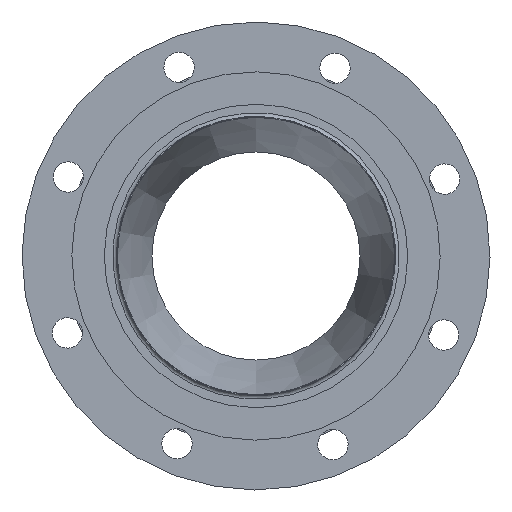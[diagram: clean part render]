
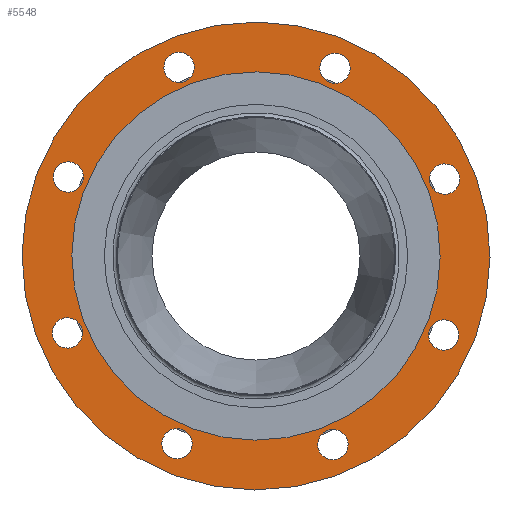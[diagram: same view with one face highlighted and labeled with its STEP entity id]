
A CAD part, front view. The second image highlights one B-rep face of the part: STEP entity #5548.
In plain terms, the highlighted planar face has unit normal (0, -1, 0) as drawn and (0, 1, 0) by its records, which use the part's own axes.
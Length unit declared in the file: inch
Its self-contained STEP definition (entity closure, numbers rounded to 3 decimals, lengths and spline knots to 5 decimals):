
#5209=CARTESIAN_POINT('',(-1.93891,0.9375,5.73715));
#5210=VERTEX_POINT('',#5209);
#5211=CARTESIAN_POINT('',(-2.24827,0.9375,5.42779));
#5212=DIRECTION('',(0.0,-1.0,0.0));
#5213=DIRECTION('',(0.707,0.0,0.707));
#5214=AXIS2_PLACEMENT_3D('',#5211,#5212,#5213);
#5215=CIRCLE('',#5214,0.4375);
#5216=EDGE_CURVE('',#5210,#5210,#5215,.T.);
#5237=CARTESIAN_POINT('',(-5.42779,0.9375,2.68577));
#5238=VERTEX_POINT('',#5237);
#5239=CARTESIAN_POINT('',(-5.42779,0.9375,2.24827));
#5240=DIRECTION('',(0.0,-1.0,0.0));
#5241=DIRECTION('',(0.0,0.0,1.0));
#5242=AXIS2_PLACEMENT_3D('',#5239,#5240,#5241);
#5243=CIRCLE('',#5242,0.4375);
#5244=EDGE_CURVE('',#5238,#5238,#5243,.T.);
#5265=CARTESIAN_POINT('',(-5.73715,0.9375,-1.93891));
#5266=VERTEX_POINT('',#5265);
#5267=CARTESIAN_POINT('',(-5.42779,0.9375,-2.24827));
#5268=DIRECTION('',(0.0,-1.0,0.0));
#5269=DIRECTION('',(-0.707,0.0,0.707));
#5270=AXIS2_PLACEMENT_3D('',#5267,#5268,#5269);
#5271=CIRCLE('',#5270,0.4375);
#5272=EDGE_CURVE('',#5266,#5266,#5271,.T.);
#5293=CARTESIAN_POINT('',(-2.68577,0.9375,-5.42779));
#5294=VERTEX_POINT('',#5293);
#5295=CARTESIAN_POINT('',(-2.24827,0.9375,-5.42779));
#5296=DIRECTION('',(0.0,-1.0,0.0));
#5297=DIRECTION('',(-1.0,0.0,0.0));
#5298=AXIS2_PLACEMENT_3D('',#5295,#5296,#5297);
#5299=CIRCLE('',#5298,0.4375);
#5300=EDGE_CURVE('',#5294,#5294,#5299,.T.);
#5321=CARTESIAN_POINT('',(1.93891,0.9375,-5.73715));
#5322=VERTEX_POINT('',#5321);
#5323=CARTESIAN_POINT('',(2.24827,0.9375,-5.42779));
#5324=DIRECTION('',(0.0,-1.0,0.0));
#5325=DIRECTION('',(-0.707,0.0,-0.707));
#5326=AXIS2_PLACEMENT_3D('',#5323,#5324,#5325);
#5327=CIRCLE('',#5326,0.4375);
#5328=EDGE_CURVE('',#5322,#5322,#5327,.T.);
#5349=CARTESIAN_POINT('',(5.42779,0.9375,-2.68577));
#5350=VERTEX_POINT('',#5349);
#5351=CARTESIAN_POINT('',(5.42779,0.9375,-2.24827));
#5352=DIRECTION('',(0.0,-1.0,0.0));
#5353=DIRECTION('',(0.0,0.0,-1.0));
#5354=AXIS2_PLACEMENT_3D('',#5351,#5352,#5353);
#5355=CIRCLE('',#5354,0.4375);
#5356=EDGE_CURVE('',#5350,#5350,#5355,.T.);
#5377=CARTESIAN_POINT('',(5.73715,0.9375,1.93891));
#5378=VERTEX_POINT('',#5377);
#5379=CARTESIAN_POINT('',(5.42779,0.9375,2.24827));
#5380=DIRECTION('',(0.0,-1.0,0.0));
#5381=DIRECTION('',(0.707,0.0,-0.707));
#5382=AXIS2_PLACEMENT_3D('',#5379,#5380,#5381);
#5383=CIRCLE('',#5382,0.4375);
#5384=EDGE_CURVE('',#5378,#5378,#5383,.T.);
#5405=CARTESIAN_POINT('',(2.68577,0.9375,5.42779));
#5406=VERTEX_POINT('',#5405);
#5407=CARTESIAN_POINT('',(2.24827,0.9375,5.42779));
#5408=DIRECTION('',(0.0,-1.0,0.0));
#5409=DIRECTION('',(1.0,0.0,0.0));
#5410=AXIS2_PLACEMENT_3D('',#5407,#5408,#5409);
#5411=CIRCLE('',#5410,0.4375);
#5412=EDGE_CURVE('',#5406,#5406,#5411,.T.);
#5433=CARTESIAN_POINT('',(5.3125,0.9375,0.));
#5434=VERTEX_POINT('',#5433);
#5435=CARTESIAN_POINT('',(0.0,0.9375,0.0));
#5436=DIRECTION('',(0.0,-1.0,0.0));
#5437=DIRECTION('',(-1.0,0.0,0.0));
#5438=AXIS2_PLACEMENT_3D('',#5435,#5436,#5437);
#5439=CIRCLE('',#5438,5.3125);
#5440=EDGE_CURVE('',#5434,#5434,#5439,.T.);
#5490=CARTESIAN_POINT('',(-6.75,0.9375,0.));
#5491=VERTEX_POINT('',#5490);
#5492=CARTESIAN_POINT('',(0.0,0.9375,0.0));
#5493=DIRECTION('',(0.0,-1.0,0.0));
#5494=DIRECTION('',(1.0,0.0,0.0));
#5495=AXIS2_PLACEMENT_3D('',#5492,#5493,#5494);
#5496=CIRCLE('',#5495,6.75);
#5497=EDGE_CURVE('',#5491,#5491,#5496,.T.);
#5513=CARTESIAN_POINT('',(0.0,0.9375,0.0));
#5514=DIRECTION('',(0.0,-1.0,0.0));
#5515=DIRECTION('',(0.0,0.0,-1.0));
#5516=AXIS2_PLACEMENT_3D('',#5513,#5514,#5515);
#5517=PLANE('',#5516);
#5518=ORIENTED_EDGE('',*,*,#5497,.F.);
#5519=EDGE_LOOP('',(#5518));
#5520=FACE_OUTER_BOUND('',#5519,.T.);
#5521=ORIENTED_EDGE('',*,*,#5216,.T.);
#5522=EDGE_LOOP('',(#5521));
#5523=FACE_BOUND('',#5522,.T.);
#5524=ORIENTED_EDGE('',*,*,#5244,.T.);
#5525=EDGE_LOOP('',(#5524));
#5526=FACE_BOUND('',#5525,.T.);
#5527=ORIENTED_EDGE('',*,*,#5272,.T.);
#5528=EDGE_LOOP('',(#5527));
#5529=FACE_BOUND('',#5528,.T.);
#5530=ORIENTED_EDGE('',*,*,#5300,.T.);
#5531=EDGE_LOOP('',(#5530));
#5532=FACE_BOUND('',#5531,.T.);
#5533=ORIENTED_EDGE('',*,*,#5328,.T.);
#5534=EDGE_LOOP('',(#5533));
#5535=FACE_BOUND('',#5534,.T.);
#5536=ORIENTED_EDGE('',*,*,#5356,.T.);
#5537=EDGE_LOOP('',(#5536));
#5538=FACE_BOUND('',#5537,.T.);
#5539=ORIENTED_EDGE('',*,*,#5384,.T.);
#5540=EDGE_LOOP('',(#5539));
#5541=FACE_BOUND('',#5540,.T.);
#5542=ORIENTED_EDGE('',*,*,#5412,.T.);
#5543=EDGE_LOOP('',(#5542));
#5544=FACE_BOUND('',#5543,.T.);
#5545=ORIENTED_EDGE('',*,*,#5440,.T.);
#5546=EDGE_LOOP('',(#5545));
#5547=FACE_BOUND('',#5546,.T.);
#5548=ADVANCED_FACE('',(#5520,#5523,#5526,#5529,#5532,#5535,#5538,#5541,#5544,#5547),#5517,.F.);
